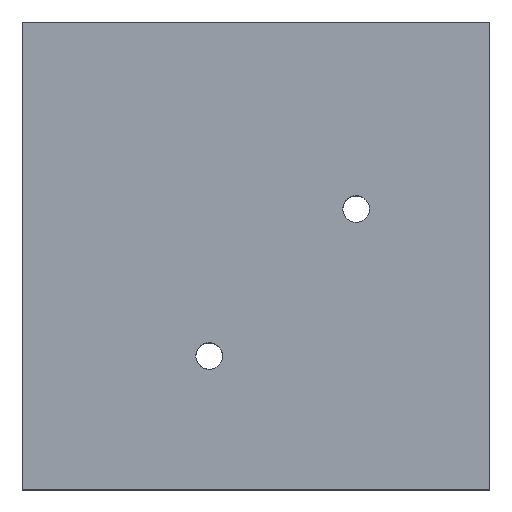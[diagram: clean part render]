
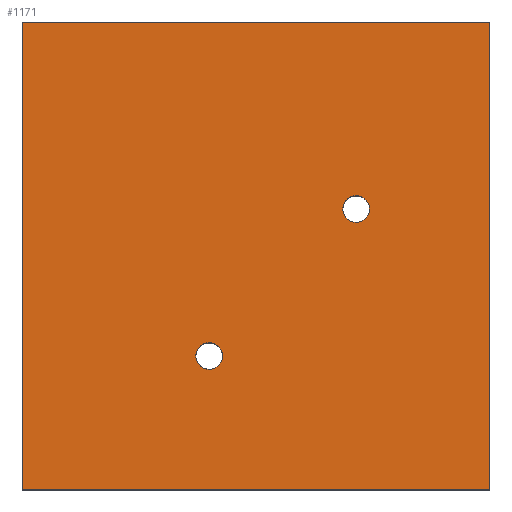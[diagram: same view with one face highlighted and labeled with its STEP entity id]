
A CAD part, top view. The second image highlights one B-rep face of the part: STEP entity #1171.
In plain terms, the highlighted planar face has unit normal (0, 0, 1).
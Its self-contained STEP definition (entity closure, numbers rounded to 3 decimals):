
#5 = ORIENTED_EDGE ( 'NONE', *, *, #767, .T. ) ;
#26 = EDGE_CURVE ( 'NONE', #140, #735, #659, .T. ) ;
#35 = DIRECTION ( 'NONE',  ( 1., 0., 0. ) ) ;
#37 = DIRECTION ( 'NONE',  ( 0., -1., 0. ) ) ;
#46 = ORIENTED_EDGE ( 'NONE', *, *, #308, .F. ) ;
#112 = ORIENTED_EDGE ( 'NONE', *, *, #755, .T. ) ;
#117 = CARTESIAN_POINT ( 'NONE',  ( 17.5, 17.5, 10. ) ) ;
#122 = LINE ( 'NONE', #117, #263 ) ;
#138 = CARTESIAN_POINT ( 'NONE',  ( -3.5, -7.5, 10. ) ) ;
#140 = VERTEX_POINT ( 'NONE', #1140 ) ;
#145 = LINE ( 'NONE', #892, #937 ) ;
#163 = AXIS2_PLACEMENT_3D ( 'NONE', #305, #879, #35 ) ;
#167 = CARTESIAN_POINT ( 'NONE',  ( -3.5, -7.5, 10. ) ) ;
#236 = CARTESIAN_POINT ( 'NONE',  ( -17.5, 17.5, 10. ) ) ;
#246 = FACE_BOUND ( 'NONE', #915, .T. ) ;
#263 = VECTOR ( 'NONE', #872, 1000. ) ;
#289 = VERTEX_POINT ( 'NONE', #598 ) ;
#301 = EDGE_LOOP ( 'NONE', ( #796, #867, #112, #5 ) ) ;
#305 = CARTESIAN_POINT ( 'NONE',  ( 7.5, 3.5, 10. ) ) ;
#307 = VERTEX_POINT ( 'NONE', #1184 ) ;
#308 = EDGE_CURVE ( 'NONE', #735, #140, #1092, .T. ) ;
#319 = CARTESIAN_POINT ( 'NONE',  ( 7.5, 3.5, 10. ) ) ;
#325 = DIRECTION ( 'NONE',  ( 1., 0., 0. ) ) ;
#369 = DIRECTION ( 'NONE',  ( 1., 0., 0. ) ) ;
#371 = VERTEX_POINT ( 'NONE', #1180 ) ;
#408 = VERTEX_POINT ( 'NONE', #604 ) ;
#429 = CARTESIAN_POINT ( 'NONE',  ( -2.5, -7.5, 10. ) ) ;
#442 = VECTOR ( 'NONE', #37, 1000. ) ;
#455 = DIRECTION ( 'NONE',  ( -1., 0., 0. ) ) ;
#460 = VECTOR ( 'NONE', #455, 1000. ) ;
#494 = ORIENTED_EDGE ( 'NONE', *, *, #1082, .F. ) ;
#519 = ORIENTED_EDGE ( 'NONE', *, *, #26, .F. ) ;
#528 = EDGE_CURVE ( 'NONE', #1088, #1211, #1113, .T. ) ;
#530 = DIRECTION ( 'NONE',  ( 0., 0., 1. ) ) ;
#536 = PLANE ( 'NONE',  #938 ) ;
#598 = CARTESIAN_POINT ( 'NONE',  ( 6.5, 3.5, 10. ) ) ;
#604 = CARTESIAN_POINT ( 'NONE',  ( 17.5, -17.5, 10. ) ) ;
#625 = FACE_OUTER_BOUND ( 'NONE', #301, .T. ) ;
#655 = CARTESIAN_POINT ( 'NONE',  ( -17.5, 17.5, 10. ) ) ;
#656 = CARTESIAN_POINT ( 'NONE',  ( -17.5, 17.5, 10. ) ) ;
#659 = CIRCLE ( 'NONE', #836, 1. ) ;
#700 = AXIS2_PLACEMENT_3D ( 'NONE', #319, #866, #1065 ) ;
#735 = VERTEX_POINT ( 'NONE', #429 ) ;
#755 = EDGE_CURVE ( 'NONE', #1211, #307, #798, .T. ) ;
#767 = EDGE_CURVE ( 'NONE', #307, #408, #145, .T. ) ;
#773 = CIRCLE ( 'NONE', #163, 1. ) ;
#793 = AXIS2_PLACEMENT_3D ( 'NONE', #138, #988, #325 ) ;
#796 = ORIENTED_EDGE ( 'NONE', *, *, #1062, .T. ) ;
#798 = LINE ( 'NONE', #236, #442 ) ;
#801 = FACE_BOUND ( 'NONE', #873, .T. ) ;
#836 = AXIS2_PLACEMENT_3D ( 'NONE', #167, #842, #369 ) ;
#842 = DIRECTION ( 'NONE',  ( 0., 0., 1. ) ) ;
#866 = DIRECTION ( 'NONE',  ( 0., 0., 1. ) ) ;
#867 = ORIENTED_EDGE ( 'NONE', *, *, #528, .T. ) ;
#872 = DIRECTION ( 'NONE',  ( 0., 1., 0. ) ) ;
#873 = EDGE_LOOP ( 'NONE', ( #494, #908 ) ) ;
#879 = DIRECTION ( 'NONE',  ( 0., 0., 1. ) ) ;
#892 = CARTESIAN_POINT ( 'NONE',  ( -17.5, -17.5, 10. ) ) ;
#906 = DIRECTION ( 'NONE',  ( 1., 0., 0. ) ) ;
#908 = ORIENTED_EDGE ( 'NONE', *, *, #978, .F. ) ;
#913 = CARTESIAN_POINT ( 'NONE',  ( 0., 0., 10. ) ) ;
#915 = EDGE_LOOP ( 'NONE', ( #46, #519 ) ) ;
#937 = VECTOR ( 'NONE', #1075, 1000. ) ;
#938 = AXIS2_PLACEMENT_3D ( 'NONE', #913, #530, #906 ) ;
#978 = EDGE_CURVE ( 'NONE', #289, #371, #1154, .T. ) ;
#988 = DIRECTION ( 'NONE',  ( 0., 0., 1. ) ) ;
#1062 = EDGE_CURVE ( 'NONE', #408, #1088, #122, .T. ) ;
#1065 = DIRECTION ( 'NONE',  ( 1., 0., 0. ) ) ;
#1075 = DIRECTION ( 'NONE',  ( 1., 0., 0. ) ) ;
#1082 = EDGE_CURVE ( 'NONE', #371, #289, #773, .T. ) ;
#1088 = VERTEX_POINT ( 'NONE', #1109 ) ;
#1092 = CIRCLE ( 'NONE', #793, 1. ) ;
#1109 = CARTESIAN_POINT ( 'NONE',  ( 17.5, 17.5, 10. ) ) ;
#1113 = LINE ( 'NONE', #655, #460 ) ;
#1140 = CARTESIAN_POINT ( 'NONE',  ( -4.5, -7.5, 10. ) ) ;
#1154 = CIRCLE ( 'NONE', #700, 1. ) ;
#1171 = ADVANCED_FACE ( 'NONE', ( #801, #246, #625 ), #536, .T. ) ;
#1180 = CARTESIAN_POINT ( 'NONE',  ( 8.5, 3.5, 10. ) ) ;
#1184 = CARTESIAN_POINT ( 'NONE',  ( -17.5, -17.5, 10. ) ) ;
#1211 = VERTEX_POINT ( 'NONE', #656 ) ;
